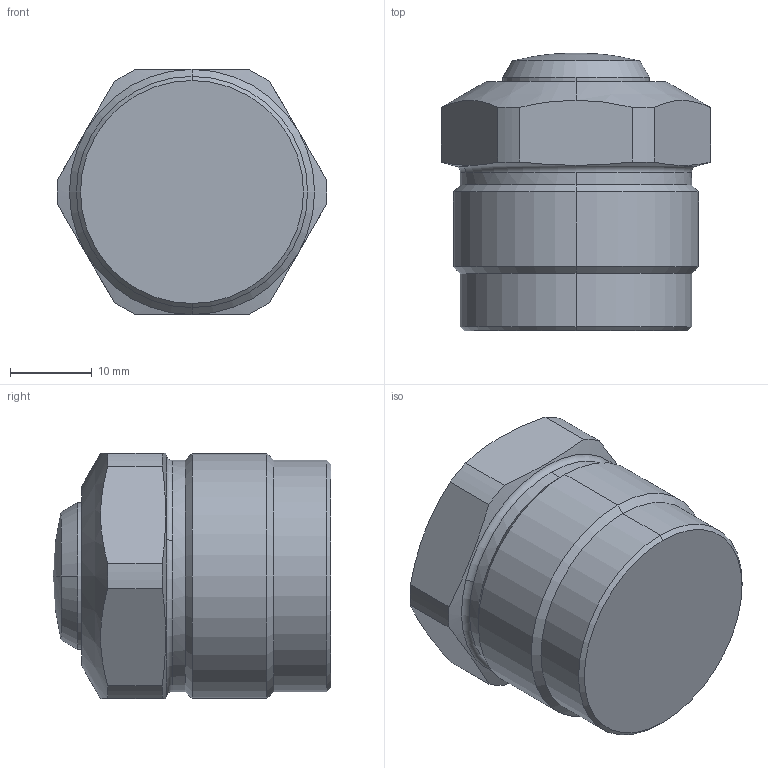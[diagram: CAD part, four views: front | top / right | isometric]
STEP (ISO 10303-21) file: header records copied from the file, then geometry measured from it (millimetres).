
FILE_DESCRIPTION((' '),'2;1');
FILE_NAME( 'CMC06-05R.X_T.stp', '2024-08-27T13:58:38', (' '), ('--- Datakit www.datakit.com---'), ' Datakit CrossCadWare V2024.1 Dec 21 2023', 'Mastercam 2025', ' ');
FILE_SCHEMA(('AUTOMOTIVE_DESIGN { 1 0 10303 214 1 1 1 1 }'));
Length unit declared in the file: millimetre
Products named in the file (1): CMC06-05R
Bounding box: 32.98 x 34 x 30 mm (x, y, z)
Volume: 21530.1 mm3; surface area: 5376.9 mm2
Topology: 2 solids, 2 shells, 42 faces, 102 edges, 63 vertices
Faces by surface type: cylinder 16, cone 12, plane 10, torus 2, sphere 2
Entity records: 1332 total; most frequent: CARTESIAN_POINT 322, DIRECTION 220, ORIENTED_EDGE 200, EDGE_CURVE 100, AXIS2_PLACEMENT_3D 93, VERTEX_POINT 63, CIRCLE 50, EDGE_LOOP 43
